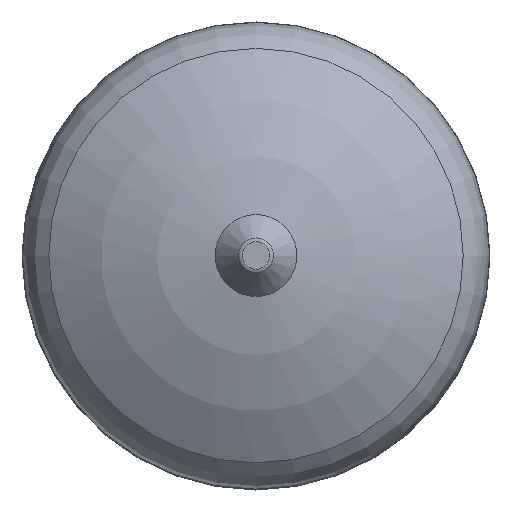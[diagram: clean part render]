
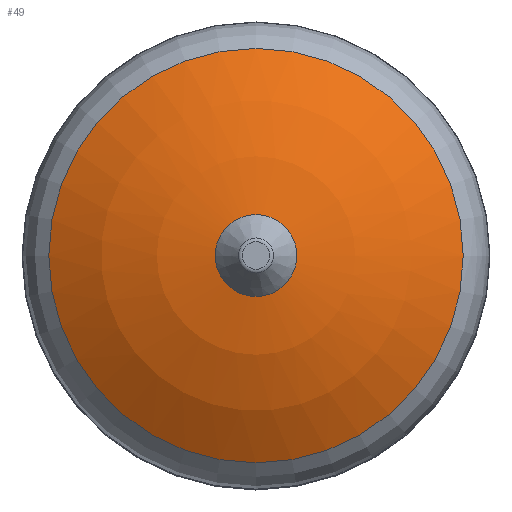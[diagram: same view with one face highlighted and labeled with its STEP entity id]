
A CAD part, top view. The second image highlights one B-rep face of the part: STEP entity #49.
In plain terms, the highlighted spherical face has radius 235.8 mm.
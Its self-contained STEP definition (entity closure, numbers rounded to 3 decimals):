
#49=ADVANCED_FACE('',(#124,#126),#128,.T.);
#124=FACE_BOUND('',#125,.T.);
#125=EDGE_LOOP('',(#410,#411));
#126=FACE_BOUND('',#127,.T.);
#127=EDGE_LOOP('',(#412,#413));
#128=SPHERICAL_SURFACE('',#129,235.8);
#129=AXIS2_PLACEMENT_3D('',#130,#131,#132);
#130=CARTESIAN_POINT('',(0.,0.,120.928));
#131=DIRECTION('',(0.,0.,1.));
#132=DIRECTION('',(1.,0.,0.));
#410=ORIENTED_EDGE('',*,*,#537,.T.);
#411=ORIENTED_EDGE('',*,*,#536,.T.);
#412=ORIENTED_EDGE('',*,*,#538,.F.);
#413=ORIENTED_EDGE('',*,*,#539,.F.);
#536=EDGE_CURVE('',#614,#615,#616,.T.);
#537=EDGE_CURVE('',#615,#614,#617,.T.);
#538=EDGE_CURVE('',#618,#619,#620,.T.);
#539=EDGE_CURVE('',#619,#618,#621,.T.);
#614=VERTEX_POINT('',#780);
#615=VERTEX_POINT('',#781);
#616=CIRCLE('',#782,128.747);
#617=CIRCLE('',#786,128.747);
#618=VERTEX_POINT('',#790);
#619=VERTEX_POINT('',#791);
#620=CIRCLE('',#792,25.431);
#621=CIRCLE('',#796,25.431);
#780=CARTESIAN_POINT('',(-128.747,0.,318.478));
#781=CARTESIAN_POINT('',(128.747,0.,318.478));
#782=AXIS2_PLACEMENT_3D('',#783,#784,#785);
#783=CARTESIAN_POINT('',(0.,0.,318.478));
#784=DIRECTION('',(0.,0.,1.));
#785=DIRECTION('',(-1.,0.,0.));
#786=AXIS2_PLACEMENT_3D('',#787,#788,#789);
#787=CARTESIAN_POINT('',(0.,0.,318.478));
#788=DIRECTION('',(0.,0.,1.));
#789=DIRECTION('',(1.,0.,0.));
#790=CARTESIAN_POINT('',(-25.431,0.,355.352));
#791=CARTESIAN_POINT('',(25.431,0.,355.352));
#792=AXIS2_PLACEMENT_3D('',#793,#794,#795);
#793=CARTESIAN_POINT('',(0.,0.,355.352));
#794=DIRECTION('',(0.,0.,1.));
#795=DIRECTION('',(-1.,0.,0.));
#796=AXIS2_PLACEMENT_3D('',#797,#798,#799);
#797=CARTESIAN_POINT('',(0.,0.,355.352));
#798=DIRECTION('',(0.,0.,1.));
#799=DIRECTION('',(1.,0.,0.));
